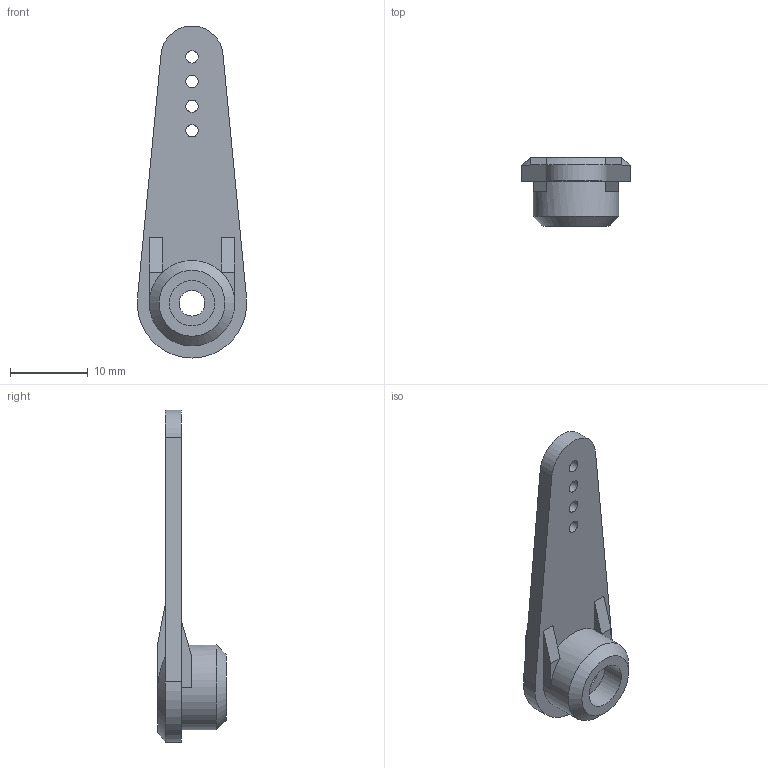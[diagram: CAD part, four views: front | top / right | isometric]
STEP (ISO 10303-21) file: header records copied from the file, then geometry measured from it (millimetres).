
FILE_DESCRIPTION(/* description */ ('SUPER STRENGTH LONG SERVO LARGE ARM'),/* implementation_level */ '2;1');
FILE_NAME(/* name */ 'C:\IV2022WorkFolder\Designs\Bob\VENDORS\MECHANICAL\Dubro\Arm_publish\670_L SUPER STRENGTH LONG SERVO LARGE ARM.stp',/* time_stamp */ '2022-08-04T11:48:07-05:00',/* author */ ('dotwibo2'),/* organization */ (''),/* preprocessor_version */ 'ST-DEVELOPER v18.1',/* originating_system */ 'Autodesk Inventor 2022',/* authorisation */ '');
FILE_SCHEMA (('CONFIG_CONTROL_DESIGN'));
Length unit declared in the file: millimetre
Products named in the file (1): 670 L
Bounding box: 14.08 x 8.8 x 42.79 mm (x, y, z)
Volume: 1358 mm3; surface area: 1490 mm2
Topology: 1 solids, 1 shells, 36 faces, 89 edges, 58 vertices
Faces by surface type: plane 22, cylinder 10, cone 4
Full cylindrical faces by diameter (mm): 1.587 x4, 3.3 x1, 5.85 x1, 6.5 x1, 11 x1
Entity records: 1131 total; most frequent: CARTESIAN_POINT 192, DIRECTION 190, ORIENTED_EDGE 178, EDGE_CURVE 89, AXIS2_PLACEMENT_3D 68, VERTEX_POINT 58, LINE 54, VECTOR 54
